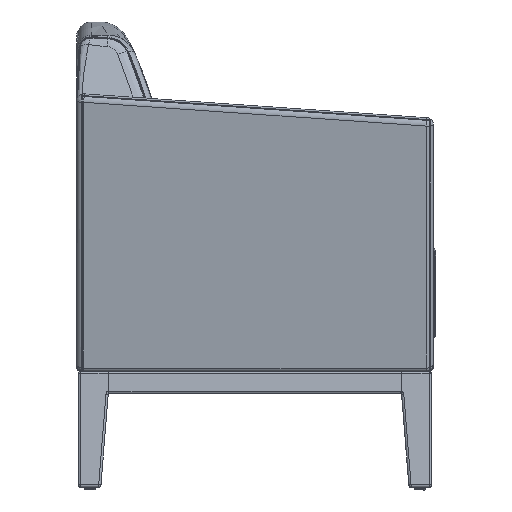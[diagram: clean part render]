
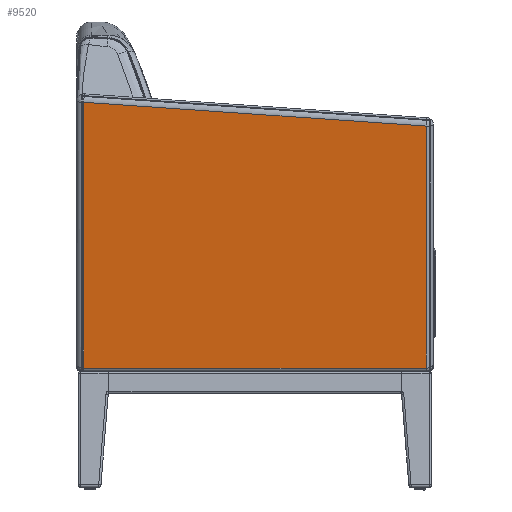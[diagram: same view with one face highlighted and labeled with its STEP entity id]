
A CAD part, left-side view. The second image highlights one B-rep face of the part: STEP entity #9520.
In plain terms, the highlighted planar face has unit normal (-0.993, 0, -0.119).
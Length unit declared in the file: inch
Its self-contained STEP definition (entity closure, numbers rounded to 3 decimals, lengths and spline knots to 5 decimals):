
#947=PLANE('',#10467);
#1322=FACE_OUTER_BOUND('',#2008,.T.);
#2008=EDGE_LOOP('',(#7490,#7491,#7492,#7493));
#2607=LINE('',#18276,#3066);
#2623=LINE('',#18644,#3082);
#2630=LINE('',#18675,#3089);
#2632=LINE('',#18679,#3091);
#3066=VECTOR('',#12283,0.3937);
#3082=VECTOR('',#12385,0.3937);
#3089=VECTOR('',#12412,0.3937);
#3091=VECTOR('',#12418,0.3937);
#4169=VERTEX_POINT('',#18186);
#4176=VERTEX_POINT('',#18231);
#4218=VERTEX_POINT('',#18639);
#4219=VERTEX_POINT('',#18643);
#5281=EDGE_CURVE('',#4176,#4169,#2607,.T.);
#5339=EDGE_CURVE('',#4219,#4218,#2623,.T.);
#5353=EDGE_CURVE('',#4218,#4176,#2630,.T.);
#5355=EDGE_CURVE('',#4169,#4219,#2632,.T.);
#7490=ORIENTED_EDGE('',*,*,#5353,.T.);
#7491=ORIENTED_EDGE('',*,*,#5281,.T.);
#7492=ORIENTED_EDGE('',*,*,#5355,.T.);
#7493=ORIENTED_EDGE('',*,*,#5339,.T.);
#9520=ADVANCED_FACE('',(#1322),#947,.F.);
#10467=AXIS2_PLACEMENT_3D('',#18678,#12416,#12417);
#12283=DIRECTION('',(0.,-1.,0.));
#12385=DIRECTION('',(-0.008,0.998,0.069));
#12412=DIRECTION('',(0.119,0.,-0.993));
#12416=DIRECTION('center_axis',(0.993,0.,
0.119));
#12417=DIRECTION('ref_axis',(0.119,0.,-0.993));
#12418=DIRECTION('',(-0.119,0.,0.993));
#18186=CARTESIAN_POINT('',(50.01832,-21.56007,7.69596));
#18231=CARTESIAN_POINT('',(50.01832,1.32693,7.69596));
#18276=CARTESIAN_POINT('',(50.01832,1.82693,7.69596));
#18639=CARTESIAN_POINT('',(47.8912,1.32693,25.46033));
#18643=CARTESIAN_POINT('',(48.08182,-21.56007,23.86838));
#18644=CARTESIAN_POINT('',(47.89214,1.21404,25.45248));
#18675=CARTESIAN_POINT('',(49.49917,1.32693,12.03156));
#18678=CARTESIAN_POINT('Origin',(50.04469,1.82693,7.47569));
#18679=CARTESIAN_POINT('',(49.54891,-21.56007,11.61618));
